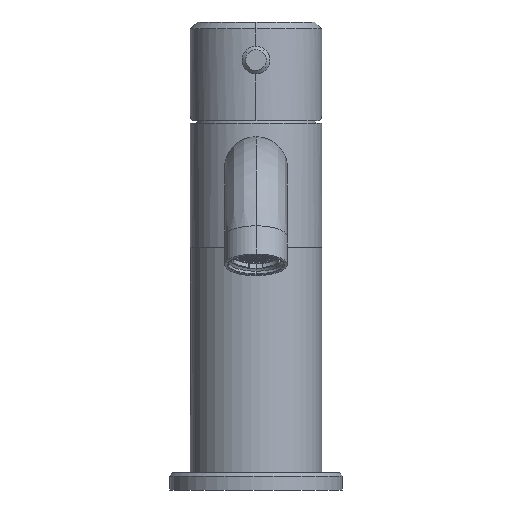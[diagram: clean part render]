
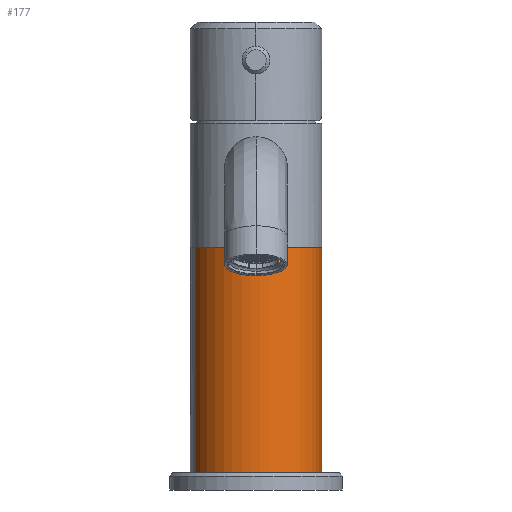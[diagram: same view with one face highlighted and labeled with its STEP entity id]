
A CAD part, front view. The second image highlights one B-rep face of the part: STEP entity #177.
In plain terms, the highlighted cylindrical face has radius 19 mm (diameter 38 mm), a partial arc.
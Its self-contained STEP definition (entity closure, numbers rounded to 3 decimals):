
#177=ADVANCED_FACE('',(#581),#7389,.T.);
#581=FACE_OUTER_BOUND('',#989,.T.);
#989=EDGE_LOOP('',(#1440,#1441,#1442,#1443));
#1440=ORIENTED_EDGE('',*,*,#3399,.F.);
#1441=ORIENTED_EDGE('',*,*,#3404,.T.);
#1442=ORIENTED_EDGE('',*,*,#3401,.F.);
#1443=ORIENTED_EDGE('',*,*,#3405,.F.);
#3399=EDGE_CURVE('',#6111,#6112,#4745,.T.);
#3401=EDGE_CURVE('',#6113,#6110,#4746,.T.);
#3404=EDGE_CURVE('',#6111,#6110,#5767,.T.);
#3405=EDGE_CURVE('',#6112,#6113,#5768,.T.);
#4745=B_SPLINE_CURVE_WITH_KNOTS('',1,(#8566,#8567),.UNSPECIFIED.,.F.,.F.,
(2,2),(0.,65.),.UNSPECIFIED.);
#4746=B_SPLINE_CURVE_WITH_KNOTS('',1,(#8573,#8574),.UNSPECIFIED.,.F.,.F.,
(2,2),(0.,65.),.UNSPECIFIED.);
#5767=(
BOUNDED_CURVE()
B_SPLINE_CURVE(2,(#8585,#8586,#8587,#8588,#8589),.UNSPECIFIED.,.F.,.F.)
B_SPLINE_CURVE_WITH_KNOTS((3,2,3),(0.,38.,76.),.UNSPECIFIED.)
CURVE()
GEOMETRIC_REPRESENTATION_ITEM()
RATIONAL_B_SPLINE_CURVE((1.,0.707,1.,0.707,1.))
REPRESENTATION_ITEM('')
);
#5768=(
BOUNDED_CURVE()
B_SPLINE_CURVE(2,(#8590,#8591,#8592,#8593,#8594),.UNSPECIFIED.,.F.,.F.)
B_SPLINE_CURVE_WITH_KNOTS((3,2,3),(-76.,-38.,0.),.UNSPECIFIED.)
CURVE()
GEOMETRIC_REPRESENTATION_ITEM()
RATIONAL_B_SPLINE_CURVE((1.,0.707,1.,0.707,1.))
REPRESENTATION_ITEM('')
);
#6110=VERTEX_POINT('',#8555);
#6111=VERTEX_POINT('',#8556);
#6112=VERTEX_POINT('',#8557);
#6113=VERTEX_POINT('',#8558);
#7389=CYLINDRICAL_SURFACE('',#7614,19.);
#7614=AXIS2_PLACEMENT_3D('',#8554,#7971,$);
#7971=DIRECTION('',(0.,0.,1.));
#8554=CARTESIAN_POINT('',(0.,0.,37.5));
#8555=CARTESIAN_POINT('',(17.551,7.278,5.));
#8556=CARTESIAN_POINT('',(-17.551,-7.278,5.));
#8557=CARTESIAN_POINT('',(-17.551,-7.278,70.));
#8558=CARTESIAN_POINT('',(17.551,7.278,70.));
#8566=CARTESIAN_POINT('',(-17.551,-7.278,5.));
#8567=CARTESIAN_POINT('',(-17.551,-7.278,70.));
#8573=CARTESIAN_POINT('',(17.551,7.278,70.));
#8574=CARTESIAN_POINT('',(17.551,7.278,5.));
#8585=CARTESIAN_POINT('',(-17.551,-7.278,5.));
#8586=CARTESIAN_POINT('',(-10.273,-24.829,5.));
#8587=CARTESIAN_POINT('',(7.278,-17.551,5.));
#8588=CARTESIAN_POINT('',(24.829,-10.273,5.));
#8589=CARTESIAN_POINT('',(17.551,7.278,5.));
#8590=CARTESIAN_POINT('',(-17.551,-7.278,70.));
#8591=CARTESIAN_POINT('',(-10.273,-24.829,70.));
#8592=CARTESIAN_POINT('',(7.278,-17.551,70.));
#8593=CARTESIAN_POINT('',(24.829,-10.273,70.));
#8594=CARTESIAN_POINT('',(17.551,7.278,70.));
